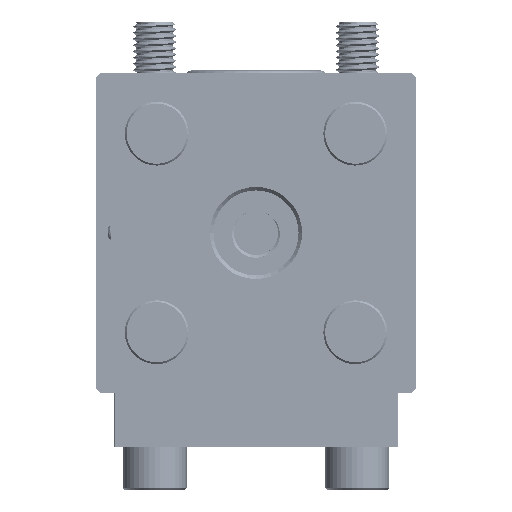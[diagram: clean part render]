
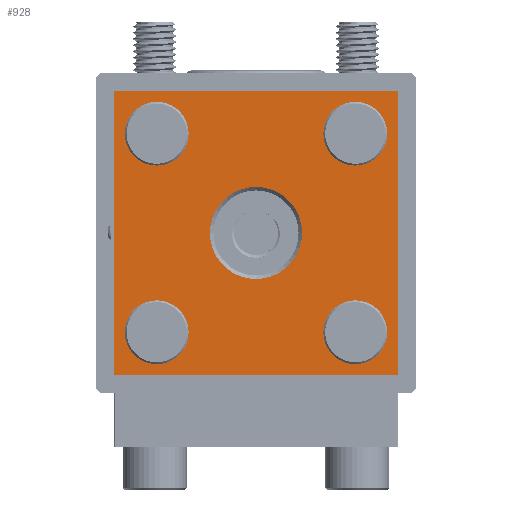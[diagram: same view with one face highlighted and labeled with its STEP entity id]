
A CAD part, left-side view. The second image highlights one B-rep face of the part: STEP entity #928.
In plain terms, the highlighted planar face has unit normal (-1, 0, 0).
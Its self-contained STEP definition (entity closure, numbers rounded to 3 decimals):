
#928=ADVANCED_FACE('',(#1914,#1915,#1916,#1917,#1918,#1919),#1220,.F.);
#1220=PLANE('',#5157);
#1408=LINE('',#23153,#1676);
#1409=LINE('',#23156,#1677);
#1410=LINE('',#23158,#1678);
#1411=LINE('',#23160,#1679);
#1676=VECTOR('',#5759,1.);
#1677=VECTOR('',#5760,1.);
#1678=VECTOR('',#5761,1.);
#1679=VECTOR('',#5762,1.);
#1914=FACE_BOUND('',#2256,.T.);
#1915=FACE_BOUND('',#2257,.T.);
#1916=FACE_BOUND('',#2258,.T.);
#1917=FACE_BOUND('',#2259,.T.);
#1918=FACE_BOUND('',#2260,.T.);
#1919=FACE_BOUND('',#2261,.T.);
#2256=EDGE_LOOP('',(#2891));
#2257=EDGE_LOOP('',(#2892));
#2258=EDGE_LOOP('',(#2893));
#2259=EDGE_LOOP('',(#2894));
#2260=EDGE_LOOP('',(#2895));
#2261=EDGE_LOOP('',(#2896,#2897,#2898,#2899));
#2891=ORIENTED_EDGE('',*,*,#4429,.T.);
#2892=ORIENTED_EDGE('',*,*,#4430,.T.);
#2893=ORIENTED_EDGE('',*,*,#4431,.T.);
#2894=ORIENTED_EDGE('',*,*,#4432,.T.);
#2895=ORIENTED_EDGE('',*,*,#4433,.F.);
#2896=ORIENTED_EDGE('',*,*,#4434,.T.);
#2897=ORIENTED_EDGE('',*,*,#4435,.F.);
#2898=ORIENTED_EDGE('',*,*,#4436,.F.);
#2899=ORIENTED_EDGE('',*,*,#4437,.T.);
#3936=VERTEX_POINT('',#23144);
#3937=VERTEX_POINT('',#23146);
#3938=VERTEX_POINT('',#23148);
#3939=VERTEX_POINT('',#23150);
#3940=VERTEX_POINT('',#23152);
#3941=VERTEX_POINT('',#23154);
#3942=VERTEX_POINT('',#23155);
#3943=VERTEX_POINT('',#23157);
#3944=VERTEX_POINT('',#23159);
#4429=EDGE_CURVE('',#3936,#3936,#4928,.T.);
#4430=EDGE_CURVE('',#3937,#3937,#4929,.T.);
#4431=EDGE_CURVE('',#3938,#3938,#4930,.T.);
#4432=EDGE_CURVE('',#3939,#3939,#4931,.T.);
#4433=EDGE_CURVE('',#3940,#3940,#4932,.T.);
#4434=EDGE_CURVE('',#3941,#3942,#1408,.T.);
#4435=EDGE_CURVE('',#3943,#3942,#1409,.T.);
#4436=EDGE_CURVE('',#3944,#3943,#1410,.T.);
#4437=EDGE_CURVE('',#3944,#3941,#1411,.T.);
#4928=CIRCLE('',#5152,9.);
#4929=CIRCLE('',#5153,9.);
#4930=CIRCLE('',#5154,9.);
#4931=CIRCLE('',#5155,9.);
#4932=CIRCLE('',#5156,13.);
#5152=AXIS2_PLACEMENT_3D('',#23143,#5749,#5750);
#5153=AXIS2_PLACEMENT_3D('',#23145,#5751,#5752);
#5154=AXIS2_PLACEMENT_3D('',#23147,#5753,#5754);
#5155=AXIS2_PLACEMENT_3D('',#23149,#5755,#5756);
#5156=AXIS2_PLACEMENT_3D('',#23151,#5757,#5758);
#5157=AXIS2_PLACEMENT_3D('',#23161,#5763,#5764);
#5749=DIRECTION('',(1.,0.,0.));
#5750=DIRECTION('',(0.,0.,-1.));
#5751=DIRECTION('',(1.,0.,0.));
#5752=DIRECTION('',(0.,0.,-1.));
#5753=DIRECTION('',(1.,0.,0.));
#5754=DIRECTION('',(0.,0.,-1.));
#5755=DIRECTION('',(1.,0.,0.));
#5756=DIRECTION('',(0.,0.,-1.));
#5757=DIRECTION('',(-1.,0.,0.));
#5758=DIRECTION('',(0.,0.,1.));
#5759=DIRECTION('',(0.,-1.,0.));
#5760=DIRECTION('',(0.,0.,-1.));
#5761=DIRECTION('',(0.,-1.,0.));
#5762=DIRECTION('',(0.,0.,-1.));
#5763=DIRECTION('',(1.,0.,0.));
#5764=DIRECTION('',(0.,0.,1.));
#23143=CARTESIAN_POINT('',(-20.228,239.169,-28.));
#23144=CARTESIAN_POINT('',(-20.228,239.169,-37.));
#23145=CARTESIAN_POINT('',(-20.228,239.169,28.));
#23146=CARTESIAN_POINT('',(-20.228,239.169,19.));
#23147=CARTESIAN_POINT('',(-20.228,295.169,-28.));
#23148=CARTESIAN_POINT('',(-20.228,295.169,-37.));
#23149=CARTESIAN_POINT('',(-20.228,295.169,28.));
#23150=CARTESIAN_POINT('',(-20.228,295.169,19.));
#23151=CARTESIAN_POINT('',(-20.228,267.169,0.));
#23152=CARTESIAN_POINT('',(-20.228,267.169,13.));
#23153=CARTESIAN_POINT('',(-20.228,306.169,-40.));
#23154=CARTESIAN_POINT('',(-20.228,307.169,-40.));
#23155=CARTESIAN_POINT('',(-20.228,227.169,-40.));
#23156=CARTESIAN_POINT('',(-20.228,227.169,40.));
#23157=CARTESIAN_POINT('',(-20.228,227.169,40.));
#23158=CARTESIAN_POINT('',(-20.228,306.169,40.));
#23159=CARTESIAN_POINT('',(-20.228,307.169,40.));
#23160=CARTESIAN_POINT('',(-20.228,307.169,40.));
#23161=CARTESIAN_POINT('',(-20.228,306.169,40.));
